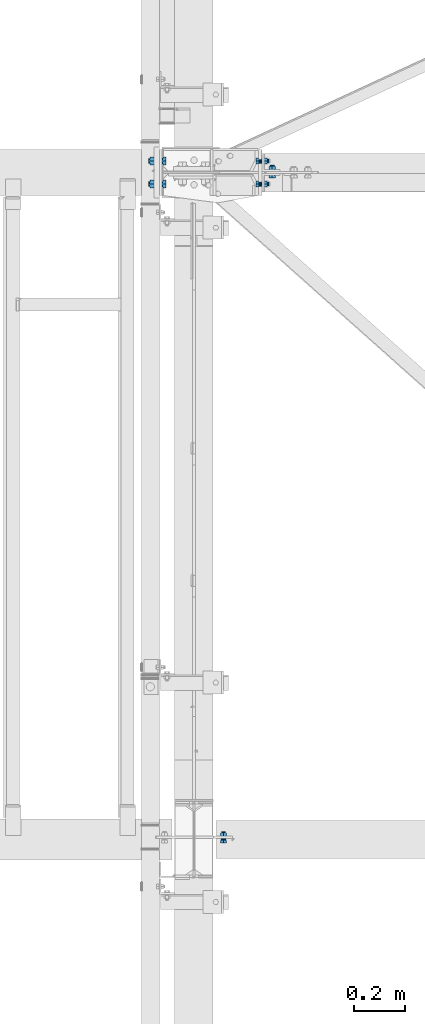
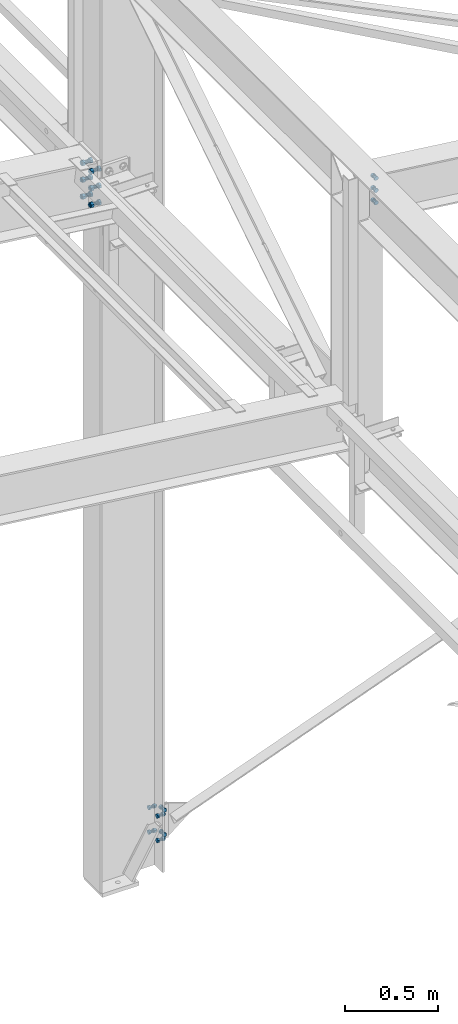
# One storey, part 283 of 3134: 6 mechanical fasteners, 4 elements without a shape of their own.
"""IFC2X3 building model written with IfcOpenShell, lengths in millimetres."""

from ifc_helpers import new_model, si_unit, frame, origin_with_axes, place, context, subcontext, project, spatial, faceted_brep, source, transform, mapped, material, type_object, element, aggregate, save


model = new_model("IFC2X3")

# Units and contexts
model_context = context("Model", 3, precision=1e-05, world=origin_with_axes())
body_context = subcontext(model_context, "Body", "Model", "MODEL_VIEW")
ifc_project = project(units=[si_unit("LENGTHUNIT", "METRE", prefix="MILLI"), si_unit("AREAUNIT", "SQUARE_METRE"), si_unit("VOLUMEUNIT", "CUBIC_METRE"), si_unit("MASSUNIT", "GRAM", prefix="KILO"), si_unit("TIMEUNIT", "SECOND"), si_unit("PLANEANGLEUNIT", "RADIAN"), si_unit("SOLIDANGLEUNIT", "STERADIAN"), si_unit("THERMODYNAMICTEMPERATUREUNIT", "DEGREE_CELSIUS"), si_unit("LUMINOUSINTENSITYUNIT", "LUMEN")], contexts=[model_context])

# Site, building, storey
site_placement = place(None, origin_with_axes())
site = spatial("IfcSite", under=ifc_project, at=site_placement, CompositionType="ELEMENT")
building_placement = place(site_placement, origin_with_axes())
building = spatial("IfcBuilding", under=site, at=building_placement, Name="Undefined", CompositionType="ELEMENT")
storey_placement = place(building_placement, origin_with_axes())
storey = spatial("IfcBuildingStorey", under=building, at=storey_placement, Name="Undefined", CompositionType="ELEMENT", Elevation=0.0)

# Assembly, mechanical fasteners
assembly_1_placement = place(storey_placement, origin_with_axes())
assembly_1 = element("IfcElementAssembly", 1, at=assembly_1_placement, inside=storey, Name="IPE400", AssemblyPlace="NOTDEFINED", PredefinedType="RIGID_FRAME")
ifc_material = material(Name="8.8")
mechanical_fastener_type = type_object("IfcMechanicalFastenerType", Name="Bolt assembly")
shared_shape_1 = source(origin_with_axes(), body_context, "Body", "Brep", [
    faceted_brep([(17.3205080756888, -26.5, 0.0), (8.66025403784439, -26.5, 15.0), (-8.66025403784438, -26.5, 15.0), (-17.3205080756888, -26.5, 2.12115047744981e-15), (-8.66025403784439, -26.5, -15.0), (8.66025403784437, -26.5, -15.0), (8.66025403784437, -13.5, -15.0), (-8.66025403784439, -13.5, -15.0), (-17.3205080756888, -13.5, 2.12115047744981e-15), (-8.66025403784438, -13.5, 15.0), (8.66025403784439, -13.5, 15.0), (17.3205080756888, -13.5, 0.0), (10.0, -13.5, 0.0), (8.66025403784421, -13.5, 5.0000000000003), (4.9999999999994, -13.5, 8.66025403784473), (-1.03633598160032e-12, -13.5, 10.0), (-5.00000000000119, -13.5, 8.6602540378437), (-8.66025403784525, -13.5, 4.99999999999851), (-10.0, -13.5, -2.07267196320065e-12), (-8.66025403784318, -13.5, -5.00000000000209), (-4.99999999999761, -13.5, -8.66025403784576), (3.09790571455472e-12, -13.5, -10.0), (5.00000000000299, -13.5, -8.66025403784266), (8.66025403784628, -13.5, -4.99999999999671), (8.66025403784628, 41.5, -4.99999999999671), (5.00000000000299, 41.5, -8.66025403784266), (3.09790571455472e-12, 41.5, -10.0), (-4.99999999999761, 41.5, -8.66025403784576), (-8.66025403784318, 41.5, -5.00000000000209), (-10.0, 41.5, -2.07267196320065e-12), (-8.66025403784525, 41.5, 4.99999999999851), (-5.00000000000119, 41.5, 8.6602540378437), (-1.03633598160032e-12, 41.5, 10.0), (4.9999999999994, 41.5, 8.66025403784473), (8.66025403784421, 41.5, 5.0000000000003), (10.0, 41.5, 0.0), (17.3205080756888, 20.0, 0.0), (8.66025403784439, 20.0, 15.0), (-8.66025403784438, 20.0, 15.0), (-17.3205080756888, 20.0, 2.12115047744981e-15), (-8.66025403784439, 20.0, -15.0), (8.66025403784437, 20.0, -15.0), (8.66025403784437, 36.0, -15.0), (-8.66025403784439, 36.0, -15.0), (-17.3205080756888, 36.0, 2.12115047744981e-15), (-8.66025403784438, 36.0, 15.0), (8.66025403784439, 36.0, 15.0), (17.3205080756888, 36.0, 0.0)], [[[0, 1, 2, 3, 4, 5]], [[6, 7, 8, 9, 10, 11]], [[0, 11, 10, 1]], [[1, 10, 9, 2]], [[2, 9, 8, 3]], [[3, 8, 7, 4]], [[4, 7, 6, 5]], [[5, 6, 11, 0]], [[12, 13, 14, 15, 16, 17, 18, 19, 20, 21, 22, 23]], [[24, 25, 26, 27, 28, 29, 30, 31, 32, 33, 34, 35]], [[12, 35, 34, 13]], [[13, 34, 33, 14]], [[14, 33, 32, 15]], [[15, 32, 31, 16]], [[16, 31, 30, 17]], [[17, 30, 29, 18]], [[18, 29, 28, 19]], [[19, 28, 27, 20]], [[20, 27, 26, 21]], [[21, 26, 25, 22]], [[22, 25, 24, 23]], [[23, 24, 35, 12]], [[36, 37, 38, 39, 40, 41]], [[42, 43, 44, 45, 46, 47]], [[36, 47, 46, 37]], [[37, 46, 45, 38]], [[38, 45, 44, 39]], [[39, 44, 43, 40]], [[40, 43, 42, 41]], [[41, 42, 47, 36]]]),
    faceted_brep([(11.0, -0.1, 0.0), (9.52627944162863, -0.1, 5.50000000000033), (5.49999999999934, -0.1, 9.5262794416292), (-1.13996957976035e-12, -0.1, 11.0), (-5.50000000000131, -0.1, 9.52627944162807), (-9.52627944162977, -0.1, 5.49999999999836), (-11.0, -0.1, -2.27993915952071e-12), (-9.5262794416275, -0.1, -5.5000000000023), (-5.49999999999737, -0.1, -9.52627944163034), (3.40769628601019e-12, -0.1, -11.0), (5.50000000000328, -0.1, -9.52627944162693), (9.52627944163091, -0.1, -5.49999999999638), (9.52627944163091, 20.0, -5.49999999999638), (5.50000000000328, 20.0, -9.52627944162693), (3.40769628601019e-12, 20.0, -11.0), (-5.49999999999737, 20.0, -9.52627944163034), (-9.5262794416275, 20.0, -5.5000000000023), (-11.0, 20.0, -2.27993915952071e-12), (-9.52627944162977, 20.0, 5.49999999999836), (-5.50000000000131, 20.0, 9.52627944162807), (-1.13996957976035e-12, 20.0, 11.0), (5.49999999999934, 20.0, 9.5262794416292), (9.52627944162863, 20.0, 5.50000000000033), (11.0, 20.0, 0.0), (11.0, -13.4, 0.0), (9.52627944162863, -13.4, 5.50000000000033), (5.49999999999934, -13.4, 9.5262794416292), (-1.13996957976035e-12, -13.4, 11.0), (-5.50000000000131, -13.4, 9.52627944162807), (-9.52627944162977, -13.4, 5.49999999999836), (-11.0, -13.4, -2.27993915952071e-12), (-9.5262794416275, -13.4, -5.5000000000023), (-5.49999999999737, -13.4, -9.52627944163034), (3.40769628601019e-12, -13.4, -11.0), (5.50000000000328, -13.4, -9.52627944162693), (9.52627944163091, -13.4, -5.49999999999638), (9.52627944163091, 0.0999999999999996, -5.49999999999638), (5.50000000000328, 0.0999999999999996, -9.52627944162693), (3.40769628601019e-12, 0.0999999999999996, -11.0), (-5.49999999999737, 0.0999999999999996, -9.52627944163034), (-9.5262794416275, 0.0999999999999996, -5.5000000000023), (-11.0, 0.0999999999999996, -2.27993915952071e-12), (-9.52627944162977, 0.0999999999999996, 5.49999999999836), (-5.50000000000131, 0.0999999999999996, 9.52627944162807), (-1.13996957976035e-12, 0.0999999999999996, 11.0), (5.49999999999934, 0.0999999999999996, 9.5262794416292), (9.52627944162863, 0.0999999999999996, 5.50000000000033), (11.0, 0.0999999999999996, 0.0)], [[[0, 1, 2, 3, 4, 5, 6, 7, 8, 9, 10, 11]], [[12, 13, 14, 15, 16, 17, 18, 19, 20, 21, 22, 23]], [[0, 23, 22, 1]], [[1, 22, 21, 2]], [[2, 21, 20, 3]], [[3, 20, 19, 4]], [[4, 19, 18, 5]], [[5, 18, 17, 6]], [[6, 17, 16, 7]], [[7, 16, 15, 8]], [[8, 15, 14, 9]], [[9, 14, 13, 10]], [[10, 13, 12, 11]], [[11, 12, 23, 0]], [[24, 25, 26, 27, 28, 29, 30, 31, 32, 33, 34, 35]], [[36, 37, 38, 39, 40, 41, 42, 43, 44, 45, 46, 47]], [[24, 47, 46, 25]], [[25, 46, 45, 26]], [[26, 45, 44, 27]], [[27, 44, 43, 28]], [[28, 43, 42, 29]], [[29, 42, 41, 30]], [[30, 41, 40, 31]], [[31, 40, 39, 32]], [[32, 39, 38, 33]], [[33, 38, 37, 34]], [[34, 37, 36, 35]], [[35, 36, 47, 24]]]),
])
mechanical_fastener_1_placement = place(assembly_1_placement, frame((44065.0, 61005.0, 4323.49914937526), z_axis=(0.0, 1.0, 0.0), x_axis=(0.0, 0.0, -1.0)))
mechanical_fastener_1 = element("IfcMechanicalFastener", 2, at=mechanical_fastener_1_placement, type_object=mechanical_fastener_type, material=ifc_material, Name="Bolt assembly", NominalDiameter=20.0, NominalLength=55.0, context=body_context, shape_type="MappedRepresentation", body=[
    mapped(shared_shape_1, transform((0.0, 0.0, 0.0))),
    mapped(shared_shape_1, transform((110.0, 0.0, 0.0))),
    mapped(shared_shape_1, transform((220.0, 0.0, 0.0))),
])
mechanical_fastener_2_placement = place(assembly_1_placement, frame((44065.0, 61095.0, 4323.49914937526), z_axis=(0.0, 1.0, 0.0), x_axis=(0.0, 0.0, -1.0)))
mechanical_fastener_2 = element("IfcMechanicalFastener", 3, at=mechanical_fastener_2_placement, type_object=mechanical_fastener_type, material=ifc_material, Name="Bolt assembly", NominalDiameter=20.0, NominalLength=55.0, context=body_context, shape_type="MappedRepresentation", body=[
    mapped(shared_shape_1, transform((0.0, 0.0, 0.0))),
    mapped(shared_shape_1, transform((110.0, 0.0, 0.0))),
    mapped(shared_shape_1, transform((220.0, 0.0, 0.0))),
])
aggregate(assembly_1, [mechanical_fastener_1, mechanical_fastener_2])

# Assembly, mechanical fastener
assembly_2_placement = place(storey_placement, origin_with_axes())
assembly_2 = element("IfcElementAssembly", 4, at=assembly_2_placement, inside=storey, Name="300", AssemblyPlace="NOTDEFINED", PredefinedType="RIGID_FRAME")
shared_shape_2 = source(origin_with_axes(), body_context, "Body", "Brep", [
    faceted_brep([(13.856406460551, -13.0499999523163, 0.0), (6.92820323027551, -13.0499999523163, 12.0), (-6.92820323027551, -13.0499999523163, 12.0), (-13.856406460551, -13.0499999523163, 1.69692038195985e-15), (-6.92820323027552, -13.0499999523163, -12.0), (6.9282032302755, -13.0499999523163, -12.0), (6.9282032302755, -3.04999995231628, -12.0), (-6.92820323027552, -3.04999995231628, -12.0), (-13.856406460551, -3.04999995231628, 1.69692038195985e-15), (-6.92820323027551, -3.04999995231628, 12.0), (6.92820323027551, -3.04999995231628, 12.0), (13.856406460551, -3.04999995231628, 0.0), (8.0, -3.04999995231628, 0.0), (6.92820323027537, -3.04999995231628, 4.00000000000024), (3.99999999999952, -3.04999995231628, 6.92820323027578), (-8.29068785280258e-13, -3.04999995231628, 8.0), (-4.00000000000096, -3.04999995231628, 6.92820323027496), (-6.9282032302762, -3.04999995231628, 3.99999999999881), (-8.0, -3.04999995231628, -1.65813757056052e-12), (-6.92820323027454, -3.04999995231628, -4.00000000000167), (-3.99999999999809, -3.04999995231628, -6.92820323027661), (2.47832457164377e-12, -3.04999995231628, -8.0), (4.00000000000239, -3.04999995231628, -6.92820323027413), (6.92820323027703, -3.04999995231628, -3.99999999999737), (6.92820323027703, 31.9500000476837, -3.99999999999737), (4.00000000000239, 31.9500000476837, -6.92820323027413), (2.47832457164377e-12, 31.9500000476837, -8.0), (-3.99999999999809, 31.9500000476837, -6.92820323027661), (-6.92820323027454, 31.9500000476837, -4.00000000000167), (-8.0, 31.9500000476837, -1.65813757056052e-12), (-6.9282032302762, 31.9500000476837, 3.99999999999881), (-4.00000000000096, 31.9500000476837, 6.92820323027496), (-8.29068785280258e-13, 31.9500000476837, 8.0), (3.99999999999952, 31.9500000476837, 6.92820323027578), (6.92820323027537, 31.9500000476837, 4.00000000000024), (8.0, 31.9500000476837, 0.0), (13.856406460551, 13.0500000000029, 0.0), (6.92820323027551, 13.0500000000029, 12.0), (-6.92820323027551, 13.0500000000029, 12.0), (-13.856406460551, 13.0500000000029, 1.69692038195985e-15), (-6.92820323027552, 13.0500000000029, -12.0), (6.9282032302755, 13.0500000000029, -12.0), (6.9282032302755, 26.0500000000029, -12.0), (-6.92820323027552, 26.0500000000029, -12.0), (-13.856406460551, 26.0500000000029, 1.69692038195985e-15), (-6.92820323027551, 26.0500000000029, 12.0), (6.92820323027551, 26.0500000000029, 12.0), (13.856406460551, 26.0500000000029, 0.0)], [[[0, 1, 2, 3, 4, 5]], [[6, 7, 8, 9, 10, 11]], [[0, 11, 10, 1]], [[1, 10, 9, 2]], [[2, 9, 8, 3]], [[3, 8, 7, 4]], [[4, 7, 6, 5]], [[5, 6, 11, 0]], [[12, 13, 14, 15, 16, 17, 18, 19, 20, 21, 22, 23]], [[24, 25, 26, 27, 28, 29, 30, 31, 32, 33, 34, 35]], [[12, 35, 34, 13]], [[13, 34, 33, 14]], [[14, 33, 32, 15]], [[15, 32, 31, 16]], [[16, 31, 30, 17]], [[17, 30, 29, 18]], [[18, 29, 28, 19]], [[19, 28, 27, 20]], [[20, 27, 26, 21]], [[21, 26, 25, 22]], [[22, 25, 24, 23]], [[23, 24, 35, 12]], [[36, 37, 38, 39, 40, 41]], [[42, 43, 44, 45, 46, 47]], [[36, 47, 46, 37]], [[37, 46, 45, 38]], [[38, 45, 44, 39]], [[39, 44, 43, 40]], [[40, 43, 42, 41]], [[41, 42, 47, 36]]]),
    faceted_brep([(9.0, 2.95000000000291, 0.0), (7.79422863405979, 2.95000000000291, 4.50000000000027), (4.49999999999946, 2.95000000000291, 7.79422863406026), (-9.3270238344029e-13, 2.95000000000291, 9.0), (-4.50000000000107, 2.95000000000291, 7.79422863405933), (-7.79422863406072, 2.95000000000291, 4.49999999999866), (-9.0, 2.95000000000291, -1.86540476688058e-12), (-7.79422863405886, 2.95000000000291, -4.50000000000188), (-4.49999999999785, 2.95000000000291, -7.79422863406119), (2.78811514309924e-12, 2.95000000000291, -9.0), (4.50000000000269, 2.95000000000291, -7.7942286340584), (7.79422863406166, 2.95000000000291, -4.49999999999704), (7.79422863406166, 13.0500000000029, -4.49999999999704), (4.50000000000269, 13.0500000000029, -7.7942286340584), (2.78811514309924e-12, 13.0500000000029, -9.0), (-4.49999999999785, 13.0500000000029, -7.79422863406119), (-7.79422863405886, 13.0500000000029, -4.50000000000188), (-9.0, 13.0500000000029, -1.86540476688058e-12), (-7.79422863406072, 13.0500000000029, 4.49999999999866), (-4.50000000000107, 13.0500000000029, 7.79422863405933), (-9.3270238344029e-13, 13.0500000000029, 9.0), (4.49999999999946, 13.0500000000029, 7.79422863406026), (7.79422863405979, 13.0500000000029, 4.50000000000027), (9.0, 13.0500000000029, 0.0), (9.0, -2.94999995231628, 0.0), (7.79422863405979, -2.94999995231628, 4.50000000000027), (4.49999999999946, -2.94999995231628, 7.79422863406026), (-9.3270238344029e-13, -2.94999995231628, 9.0), (-4.50000000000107, -2.94999995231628, 7.79422863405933), (-7.79422863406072, -2.94999995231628, 4.49999999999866), (-9.0, -2.94999995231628, -1.86540476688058e-12), (-7.79422863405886, -2.94999995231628, -4.50000000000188), (-4.49999999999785, -2.94999995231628, -7.79422863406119), (2.78811514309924e-12, -2.94999995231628, -9.0), (4.50000000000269, -2.94999995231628, -7.7942286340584), (7.79422863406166, -2.94999995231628, -4.49999999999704), (7.79422863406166, 3.14999995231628, -4.49999999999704), (4.50000000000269, 3.14999995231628, -7.7942286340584), (2.78811514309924e-12, 3.14999995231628, -9.0), (-4.49999999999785, 3.14999995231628, -7.79422863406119), (-7.79422863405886, 3.14999995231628, -4.50000000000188), (-9.0, 3.14999995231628, -1.86540476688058e-12), (-7.79422863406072, 3.14999995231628, 4.49999999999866), (-4.50000000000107, 3.14999995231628, 7.79422863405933), (-9.3270238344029e-13, 3.14999995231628, 9.0), (4.49999999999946, 3.14999995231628, 7.79422863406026), (7.79422863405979, 3.14999995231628, 4.50000000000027), (9.0, 3.14999995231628, 0.0)], [[[0, 1, 2, 3, 4, 5, 6, 7, 8, 9, 10, 11]], [[12, 13, 14, 15, 16, 17, 18, 19, 20, 21, 22, 23]], [[0, 23, 22, 1]], [[1, 22, 21, 2]], [[2, 21, 20, 3]], [[3, 20, 19, 4]], [[4, 19, 18, 5]], [[5, 18, 17, 6]], [[6, 17, 16, 7]], [[7, 16, 15, 8]], [[8, 15, 14, 9]], [[9, 14, 13, 10]], [[10, 13, 12, 11]], [[11, 12, 23, 0]], [[24, 25, 26, 27, 28, 29, 30, 31, 32, 33, 34, 35]], [[36, 37, 38, 39, 40, 41, 42, 43, 44, 45, 46, 47]], [[24, 47, 46, 25]], [[25, 46, 45, 26]], [[26, 45, 44, 27]], [[27, 44, 43, 28]], [[28, 43, 42, 29]], [[29, 42, 41, 30]], [[30, 41, 40, 31]], [[31, 40, 39, 32]], [[32, 39, 38, 33]], [[33, 38, 37, 34]], [[34, 37, 36, 35]], [[35, 36, 47, 24]]]),
])
mechanical_fastener_3_placement = place(assembly_2_placement, frame((44315.0, 58450.0, 5735.35014950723), z_axis=(1.0, 0.0, 0.0), x_axis=(0.0, 0.0, -1.0)))
mechanical_fastener_3 = element("IfcMechanicalFastener", 5, at=mechanical_fastener_3_placement, type_object=mechanical_fastener_type, material=ifc_material, Name="Bolt assembly", NominalDiameter=16.0, NominalLength=35.0, context=body_context, shape_type="MappedRepresentation", body=[
    mapped(shared_shape_2, transform((0.0, 0.0, 0.0))),
    mapped(shared_shape_2, transform((80.0, 0.0, 0.0))),
    mapped(shared_shape_2, transform((160.0, 0.0, 0.0))),
])
aggregate(assembly_2, [mechanical_fastener_3])

assembly_3_placement = place(storey_placement, origin_with_axes())
assembly_3 = element("IfcElementAssembly", 6, at=assembly_3_placement, inside=storey, AssemblyPlace="NOTDEFINED", PredefinedType="RIGID_FRAME")
shared_shape_3 = source(origin_with_axes(), body_context, "Body", "Brep", [
    faceted_brep([(13.856406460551, -21.0000017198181, 0.0), (6.92820323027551, -21.0000017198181, 12.0), (-6.92820323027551, -21.0000017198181, 12.0), (-13.856406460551, -21.0000017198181, 1.69692038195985e-15), (-6.92820323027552, -21.0000017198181, -12.0), (6.9282032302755, -21.0000017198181, -12.0), (6.9282032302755, -11.0000017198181, -12.0), (-6.92820323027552, -11.0000017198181, -12.0), (-13.856406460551, -11.0000017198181, 1.69692038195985e-15), (-6.92820323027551, -11.0000017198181, 12.0), (6.92820323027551, -11.0000017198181, 12.0), (13.856406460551, -11.0000017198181, 0.0), (8.0, -11.0000017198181, 0.0), (6.92820323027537, -11.0000017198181, 4.00000000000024), (3.99999999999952, -11.0000017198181, 6.92820323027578), (-8.29068785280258e-13, -11.0000017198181, 8.0), (-4.00000000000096, -11.0000017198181, 6.92820323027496), (-6.9282032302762, -11.0000017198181, 3.99999999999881), (-8.0, -11.0000017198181, -1.65813757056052e-12), (-6.92820323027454, -11.0000017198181, -4.00000000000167), (-3.99999999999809, -11.0000017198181, -6.92820323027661), (2.47832457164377e-12, -11.0000017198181, -8.0), (4.00000000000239, -11.0000017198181, -6.92820323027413), (6.92820323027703, -11.0000017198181, -3.99999999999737), (6.92820323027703, 29.0, -3.99999999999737), (4.00000000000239, 29.0, -6.92820323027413), (2.47832457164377e-12, 29.0, -8.0), (-3.99999999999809, 29.0, -6.92820323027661), (-6.92820323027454, 29.0, -4.00000000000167), (-8.0, 29.0, -1.65813757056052e-12), (-6.9282032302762, 29.0, 3.99999999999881), (-4.00000000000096, 29.0, 6.92820323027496), (-8.29068785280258e-13, 29.0, 8.0), (3.99999999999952, 29.0, 6.92820323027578), (6.92820323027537, 29.0, 4.00000000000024), (8.0, 29.0, 0.0), (13.856406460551, 10.9999982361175, 0.0), (6.92820323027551, 10.9999982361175, 12.0), (-6.92820323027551, 10.9999982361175, 12.0), (-13.856406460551, 10.9999982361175, 1.69692038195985e-15), (-6.92820323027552, 10.9999982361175, -12.0), (6.9282032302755, 10.9999982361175, -12.0), (6.9282032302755, 23.9999999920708, -12.0), (-6.92820323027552, 23.9999999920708, -12.0), (-13.856406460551, 23.9999999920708, 1.69692038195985e-15), (-6.92820323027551, 23.9999999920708, 12.0), (6.92820323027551, 23.9999999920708, 12.0), (13.856406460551, 23.9999999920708, 0.0)], [[[0, 1, 2, 3, 4, 5]], [[6, 7, 8, 9, 10, 11]], [[0, 11, 10, 1]], [[1, 10, 9, 2]], [[2, 9, 8, 3]], [[3, 8, 7, 4]], [[4, 7, 6, 5]], [[5, 6, 11, 0]], [[12, 13, 14, 15, 16, 17, 18, 19, 20, 21, 22, 23]], [[24, 25, 26, 27, 28, 29, 30, 31, 32, 33, 34, 35]], [[12, 35, 34, 13]], [[13, 34, 33, 14]], [[14, 33, 32, 15]], [[15, 32, 31, 16]], [[16, 31, 30, 17]], [[17, 30, 29, 18]], [[18, 29, 28, 19]], [[19, 28, 27, 20]], [[20, 27, 26, 21]], [[21, 26, 25, 22]], [[22, 25, 24, 23]], [[23, 24, 35, 12]], [[36, 37, 38, 39, 40, 41]], [[42, 43, 44, 45, 46, 47]], [[36, 47, 46, 37]], [[37, 46, 45, 38]], [[38, 45, 44, 39]], [[39, 44, 43, 40]], [[40, 43, 42, 41]], [[41, 42, 47, 36]]]),
    faceted_brep([(9.0, -3.99999624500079, 0.0), (7.79422863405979, -3.99999624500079, 4.50000000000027), (4.49999999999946, -3.99999624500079, 7.79422863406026), (-9.3270238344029e-13, -3.99999624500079, 9.0), (-4.50000000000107, -3.99999624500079, 7.79422863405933), (-7.79422863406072, -3.99999624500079, 4.49999999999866), (-9.0, -3.99999624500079, -1.86540476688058e-12), (-7.79422863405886, -3.99999624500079, -4.50000000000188), (-4.49999999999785, -3.99999624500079, -7.79422863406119), (2.78811514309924e-12, -3.99999624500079, -9.0), (4.50000000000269, -3.99999624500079, -7.7942286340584), (7.79422863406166, -3.99999624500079, -4.49999999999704), (7.79422863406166, 4.00000375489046, -4.49999999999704), (4.50000000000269, 4.00000375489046, -7.7942286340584), (2.78811514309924e-12, 4.00000375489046, -9.0), (-4.49999999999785, 4.00000375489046, -7.79422863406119), (-7.79422863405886, 4.00000375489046, -4.50000000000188), (-9.0, 4.00000375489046, -1.86540476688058e-12), (-7.79422863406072, 4.00000375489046, 4.49999999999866), (-4.50000000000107, 4.00000375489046, 7.79422863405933), (-9.3270238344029e-13, 4.00000375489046, 9.0), (4.49999999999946, 4.00000375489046, 7.79422863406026), (7.79422863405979, 4.00000375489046, 4.50000000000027), (9.0, 4.00000375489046, 0.0), (9.0, -10.9000017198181, 0.0), (7.79422863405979, -10.9000017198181, 4.50000000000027), (4.49999999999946, -10.9000017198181, 7.79422863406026), (-9.3270238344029e-13, -10.9000017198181, 9.0), (-4.50000000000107, -10.9000017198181, 7.79422863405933), (-7.79422863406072, -10.9000017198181, 4.49999999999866), (-9.0, -10.9000017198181, -1.86540476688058e-12), (-7.79422863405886, -10.9000017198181, -4.50000000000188), (-4.49999999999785, -10.9000017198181, -7.79422863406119), (2.78811514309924e-12, -10.9000017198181, -9.0), (4.50000000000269, -10.9000017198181, -7.7942286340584), (7.79422863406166, -10.9000017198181, -4.49999999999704), (7.79422863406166, -3.9, -4.49999999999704), (4.50000000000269, -3.9, -7.7942286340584), (2.78811514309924e-12, -3.9, -9.0), (-4.49999999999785, -3.9, -7.79422863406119), (-7.79422863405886, -3.9, -4.50000000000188), (-9.0, -3.9, -1.86540476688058e-12), (-7.79422863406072, -3.9, 4.49999999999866), (-4.50000000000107, -3.9, 7.79422863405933), (-9.3270238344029e-13, -3.9, 9.0), (4.49999999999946, -3.9, 7.79422863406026), (7.79422863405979, -3.9, 4.50000000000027), (9.0, -3.9, 0.0), (9.0, 3.9, 0.0), (7.79422863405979, 3.9, 4.50000000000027), (4.49999999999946, 3.9, 7.79422863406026), (-9.3270238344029e-13, 3.9, 9.0), (-4.50000000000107, 3.9, 7.79422863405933), (-7.79422863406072, 3.9, 4.49999999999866), (-9.0, 3.9, -1.86540476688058e-12), (-7.79422863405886, 3.9, -4.50000000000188), (-4.49999999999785, 3.9, -7.79422863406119), (2.78811514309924e-12, 3.9, -9.0), (4.50000000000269, 3.9, -7.7942286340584), (7.79422863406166, 3.9, -4.49999999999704), (7.79422863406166, 10.9999982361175, -4.49999999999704), (4.50000000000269, 10.9999982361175, -7.7942286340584), (2.78811514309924e-12, 10.9999982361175, -9.0), (-4.49999999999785, 10.9999982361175, -7.79422863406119), (-7.79422863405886, 10.9999982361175, -4.50000000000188), (-9.0, 10.9999982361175, -1.86540476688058e-12), (-7.79422863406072, 10.9999982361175, 4.49999999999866), (-4.50000000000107, 10.9999982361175, 7.79422863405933), (-9.3270238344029e-13, 10.9999982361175, 9.0), (4.49999999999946, 10.9999982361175, 7.79422863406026), (7.79422863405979, 10.9999982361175, 4.50000000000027), (9.0, 10.9999982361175, 0.0)], [[[0, 1, 2, 3, 4, 5, 6, 7, 8, 9, 10, 11]], [[12, 13, 14, 15, 16, 17, 18, 19, 20, 21, 22, 23]], [[0, 23, 22, 1]], [[1, 22, 21, 2]], [[2, 21, 20, 3]], [[3, 20, 19, 4]], [[4, 19, 18, 5]], [[5, 18, 17, 6]], [[6, 17, 16, 7]], [[7, 16, 15, 8]], [[8, 15, 14, 9]], [[9, 14, 13, 10]], [[10, 13, 12, 11]], [[11, 12, 23, 0]], [[24, 25, 26, 27, 28, 29, 30, 31, 32, 33, 34, 35]], [[36, 37, 38, 39, 40, 41, 42, 43, 44, 45, 46, 47]], [[24, 47, 46, 25]], [[25, 46, 45, 26]], [[26, 45, 44, 27]], [[27, 44, 43, 28]], [[28, 43, 42, 29]], [[29, 42, 41, 30]], [[30, 41, 40, 31]], [[31, 40, 39, 32]], [[32, 39, 38, 33]], [[33, 38, 37, 34]], [[34, 37, 36, 35]], [[35, 36, 47, 24]], [[48, 49, 50, 51, 52, 53, 54, 55, 56, 57, 58, 59]], [[60, 61, 62, 63, 64, 65, 66, 67, 68, 69, 70, 71]], [[48, 71, 70, 49]], [[49, 70, 69, 50]], [[50, 69, 68, 51]], [[51, 68, 67, 52]], [[52, 67, 66, 53]], [[53, 66, 65, 54]], [[54, 65, 64, 55]], [[55, 64, 63, 56]], [[56, 63, 62, 57]], [[57, 62, 61, 58]], [[58, 61, 60, 59]], [[59, 60, 71, 48]]]),
])
mechanical_fastener_4_placement = place(assembly_3_placement, frame((44504.9962469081, 61050.0, -30.0004844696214), z_axis=(0.999999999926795, 0.0, -1.21000012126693e-05), x_axis=(-1.21000012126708e-05, 0.0, -0.999999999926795)))
mechanical_fastener_4 = element("IfcMechanicalFastener", 7, at=mechanical_fastener_4_placement, type_object=mechanical_fastener_type, material=ifc_material, Name="Bolt assembly", NominalDiameter=16.0, NominalLength=40.0, context=body_context, shape_type="MappedRepresentation", body=[
    mapped(shared_shape_3, transform((0.0, 0.0, 0.0))),
    mapped(shared_shape_3, transform((160.0, 0.0, 0.0))),
])

assembly_4_placement = place(storey_placement, origin_with_axes())
assembly_4 = element("IfcElementAssembly", 8, at=assembly_4_placement, inside=storey, AssemblyPlace="NOTDEFINED", PredefinedType="RIGID_FRAME")
shared_shape_4 = source(origin_with_axes(), body_context, "Body", "Brep", [
    faceted_brep([(13.856406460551, -23.4899999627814, 0.0), (6.92820323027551, -23.4899999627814, 12.0), (-6.92820323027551, -23.4899999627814, 12.0), (-13.856406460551, -23.4899999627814, 1.69692038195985e-15), (-6.92820323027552, -23.4899999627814, -12.0), (6.9282032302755, -23.4899999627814, -12.0), (6.9282032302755, -13.4899999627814, -12.0), (-6.92820323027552, -13.4899999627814, -12.0), (-13.856406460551, -13.4899999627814, 1.69692038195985e-15), (-6.92820323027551, -13.4899999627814, 12.0), (6.92820323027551, -13.4899999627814, 12.0), (13.856406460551, -13.4899999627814, 0.0), (8.0, -13.4899999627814, 0.0), (6.92820323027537, -13.4899999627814, 4.00000000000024), (3.99999999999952, -13.4899999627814, 6.92820323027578), (-8.29068785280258e-13, -13.4899999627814, 8.0), (-4.00000000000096, -13.4899999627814, 6.92820323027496), (-6.9282032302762, -13.4899999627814, 3.99999999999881), (-8.0, -13.4899999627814, -1.65813757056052e-12), (-6.92820323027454, -13.4899999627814, -4.00000000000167), (-3.99999999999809, -13.4899999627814, -6.92820323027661), (2.47832457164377e-12, -13.4899999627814, -8.0), (4.00000000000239, -13.4899999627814, -6.92820323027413), (6.92820323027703, -13.4899999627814, -3.99999999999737), (6.92820323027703, 26.5100000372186, -3.99999999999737), (4.00000000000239, 26.5100000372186, -6.92820323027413), (2.47832457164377e-12, 26.5100000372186, -8.0), (-3.99999999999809, 26.5100000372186, -6.92820323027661), (-6.92820323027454, 26.5100000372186, -4.00000000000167), (-8.0, 26.5100000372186, -1.65813757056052e-12), (-6.9282032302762, 26.5100000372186, 3.99999999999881), (-4.00000000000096, 26.5100000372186, 6.92820323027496), (-8.29068785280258e-13, 26.5100000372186, 8.0), (3.99999999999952, 26.5100000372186, 6.92820323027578), (6.92820323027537, 26.5100000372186, 4.00000000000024), (8.0, 26.5100000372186, 0.0), (13.856406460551, 7.00624984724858, 0.0), (6.92820323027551, 7.00624984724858, 12.0), (-6.92820323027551, 7.00624984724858, 12.0), (-13.856406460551, 7.00624984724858, 1.69692038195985e-15), (-6.92820323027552, 7.00624984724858, -12.0), (6.9282032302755, 7.00624984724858, -12.0), (6.9282032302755, 20.0062498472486, -12.0), (-6.92820323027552, 20.0062498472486, -12.0), (-13.856406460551, 20.0062498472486, 1.69692038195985e-15), (-6.92820323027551, 20.0062498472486, 12.0), (6.92820323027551, 20.0062498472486, 12.0), (13.856406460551, 20.0062498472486, 0.0)], [[[0, 1, 2, 3, 4, 5]], [[6, 7, 8, 9, 10, 11]], [[0, 11, 10, 1]], [[1, 10, 9, 2]], [[2, 9, 8, 3]], [[3, 8, 7, 4]], [[4, 7, 6, 5]], [[5, 6, 11, 0]], [[12, 13, 14, 15, 16, 17, 18, 19, 20, 21, 22, 23]], [[24, 25, 26, 27, 28, 29, 30, 31, 32, 33, 34, 35]], [[12, 35, 34, 13]], [[13, 34, 33, 14]], [[14, 33, 32, 15]], [[15, 32, 31, 16]], [[16, 31, 30, 17]], [[17, 30, 29, 18]], [[18, 29, 28, 19]], [[19, 28, 27, 20]], [[20, 27, 26, 21]], [[21, 26, 25, 22]], [[22, 25, 24, 23]], [[23, 24, 35, 12]], [[36, 37, 38, 39, 40, 41]], [[42, 43, 44, 45, 46, 47]], [[36, 47, 46, 37]], [[37, 46, 45, 38]], [[38, 45, 44, 39]], [[39, 44, 43, 40]], [[40, 43, 42, 41]], [[41, 42, 47, 36]]]),
    faceted_brep([(9.0, -13.3899999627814, 0.0), (7.79422863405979, -13.3899999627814, 4.50000000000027), (4.49999999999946, -13.3899999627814, 7.79422863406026), (-9.3270238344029e-13, -13.3899999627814, 9.0), (-4.50000000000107, -13.3899999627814, 7.79422863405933), (-7.79422863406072, -13.3899999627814, 4.49999999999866), (-9.0, -13.3899999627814, -1.86540476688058e-12), (-7.79422863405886, -13.3899999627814, -4.50000000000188), (-4.49999999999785, -13.3899999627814, -7.79422863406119), (2.78811514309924e-12, -13.3899999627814, -9.0), (4.50000000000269, -13.3899999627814, -7.7942286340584), (7.79422863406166, -13.3899999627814, -4.49999999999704), (7.79422863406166, 0.11000003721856, -4.49999999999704), (4.50000000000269, 0.11000003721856, -7.7942286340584), (2.78811514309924e-12, 0.11000003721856, -9.0), (-4.49999999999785, 0.11000003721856, -7.79422863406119), (-7.79422863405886, 0.11000003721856, -4.50000000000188), (-9.0, 0.11000003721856, -1.86540476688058e-12), (-7.79422863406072, 0.11000003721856, 4.49999999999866), (-4.50000000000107, 0.11000003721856, 7.79422863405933), (-9.3270238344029e-13, 0.11000003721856, 9.0), (4.49999999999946, 0.11000003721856, 7.79422863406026), (7.79422863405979, 0.11000003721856, 4.50000000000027), (9.0, 0.11000003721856, 0.0), (9.0, -0.0937501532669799, 0.0), (7.79422863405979, -0.0937501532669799, 4.50000000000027), (4.49999999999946, -0.0937501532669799, 7.79422863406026), (-9.3270238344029e-13, -0.0937501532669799, 9.0), (-4.50000000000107, -0.0937501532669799, 7.79422863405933), (-7.79422863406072, -0.0937501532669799, 4.49999999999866), (-9.0, -0.0937501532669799, -1.86540476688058e-12), (-7.79422863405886, -0.0937501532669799, -4.50000000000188), (-4.49999999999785, -0.0937501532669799, -7.79422863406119), (2.78811514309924e-12, -0.0937501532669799, -9.0), (4.50000000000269, -0.0937501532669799, -7.7942286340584), (7.79422863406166, -0.0937501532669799, -4.49999999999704), (7.79422863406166, 7.00624984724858, -4.49999999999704), (4.50000000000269, 7.00624984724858, -7.7942286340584), (2.78811514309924e-12, 7.00624984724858, -9.0), (-4.49999999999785, 7.00624984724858, -7.79422863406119), (-7.79422863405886, 7.00624984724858, -4.50000000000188), (-9.0, 7.00624984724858, -1.86540476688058e-12), (-7.79422863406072, 7.00624984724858, 4.49999999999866), (-4.50000000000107, 7.00624984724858, 7.79422863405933), (-9.3270238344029e-13, 7.00624984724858, 9.0), (4.49999999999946, 7.00624984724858, 7.79422863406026), (7.79422863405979, 7.00624984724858, 4.50000000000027), (9.0, 7.00624984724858, 0.0)], [[[0, 1, 2, 3, 4, 5, 6, 7, 8, 9, 10, 11]], [[12, 13, 14, 15, 16, 17, 18, 19, 20, 21, 22, 23]], [[0, 23, 22, 1]], [[1, 22, 21, 2]], [[2, 21, 20, 3]], [[3, 20, 19, 4]], [[4, 19, 18, 5]], [[5, 18, 17, 6]], [[6, 17, 16, 7]], [[7, 16, 15, 8]], [[8, 15, 14, 9]], [[9, 14, 13, 10]], [[10, 13, 12, 11]], [[11, 12, 23, 0]], [[24, 25, 26, 27, 28, 29, 30, 31, 32, 33, 34, 35]], [[36, 37, 38, 39, 40, 41, 42, 43, 44, 45, 46, 47]], [[24, 47, 46, 25]], [[25, 46, 45, 26]], [[26, 45, 44, 27]], [[27, 44, 43, 28]], [[28, 43, 42, 29]], [[29, 42, 41, 30]], [[30, 41, 40, 31]], [[31, 40, 39, 32]], [[32, 39, 38, 33]], [[33, 38, 37, 34]], [[34, 37, 36, 35]], [[35, 36, 47, 24]]]),
])
mechanical_fastener_5_placement = place(assembly_4_placement, frame((44464.9899999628, 61050.0, -30.0040931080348), z_axis=(0.0, -1.0, 0.0), x_axis=(0.0, 0.0, -1.0)))
mechanical_fastener_5 = element("IfcMechanicalFastener", 9, at=mechanical_fastener_5_placement, type_object=mechanical_fastener_type, material=ifc_material, Name="Bolt assembly", NominalDiameter=16.0, NominalLength=40.0, context=body_context, shape_type="MappedRepresentation", body=[
    mapped(shared_shape_4, transform((0.0, 0.0, -45.0))),
    mapped(shared_shape_4, transform((160.0, 0.0, -45.0))),
])
aggregate(assembly_4, [mechanical_fastener_5])

# Mechanical fastener
mechanical_fastener_6_placement = place(assembly_3_placement, frame((44464.9899999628, 61050.0, -30.0040931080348), z_axis=(0.0, -1.0, 0.0), x_axis=(0.0, 0.0, -1.0)))
mechanical_fastener_6 = element("IfcMechanicalFastener", 10, at=mechanical_fastener_6_placement, type_object=mechanical_fastener_type, material=ifc_material, Name="Bolt assembly", NominalDiameter=16.0, NominalLength=40.0, context=body_context, shape_type="MappedRepresentation", body=[
    mapped(shared_shape_4, transform((0.0, 0.0, 45.0))),
    mapped(shared_shape_4, transform((160.0, 0.0, 45.0))),
])

aggregate(assembly_3, [mechanical_fastener_6, mechanical_fastener_4])

save(model, "model.ifc")
